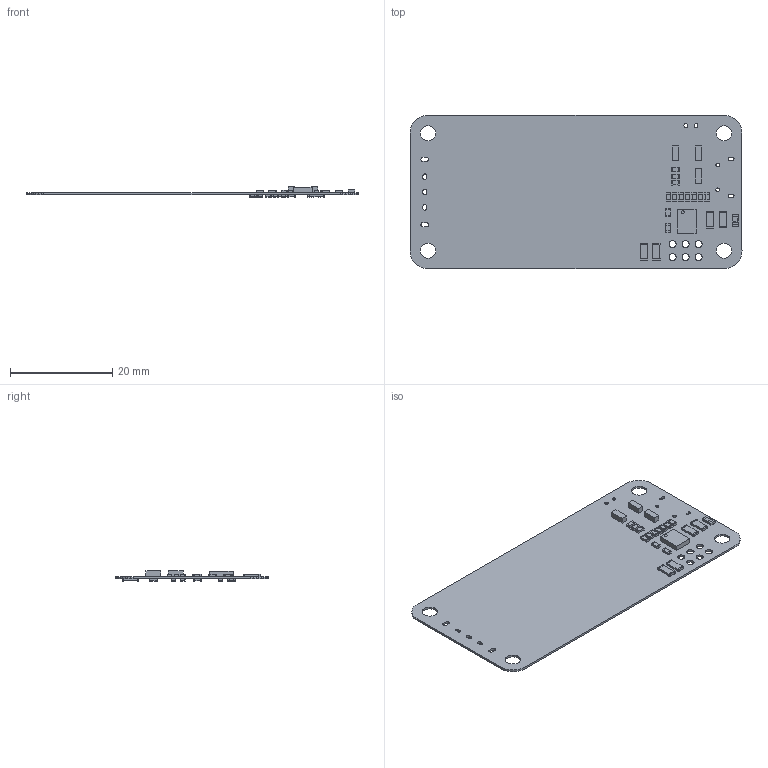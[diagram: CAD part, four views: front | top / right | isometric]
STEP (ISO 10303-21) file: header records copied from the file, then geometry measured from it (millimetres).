
FILE_DESCRIPTION(('Open CASCADE Model'),'2;1');
FILE_NAME('Open CASCADE Shape Model','2025-05-12T16:54:34',('Author'),( 'Open CASCADE'),'Open CASCADE STEP processor 6.5','Open CASCADE 6.5' ,'Unknown');
FILE_SCHEMA(('AUTOMOTIVE_DESIGN { 1 0 10303 214 1 1 1 1 }'));
Length unit declared in the file: millimetre
Products named in the file (63): PCB; Board; C4; 868861456; Extruded; 868861712; C5; 868861968; 868861840; C6; C7; C8; C9; 868862480; 868862352; C13; R1; R2; R3; R4; R5; R6; R7; R8; U2; 868860816; 868858896; C14; C1; C3; C10; 868862224; 868862096; C11; C12; C2; Led1; 868861200; 868861072; 868860944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
Assembly tree (141 placements, depth 4):
  PCB
    Board
    C4
      868861456
        Extruded
      868861712  x2
        Extruded
    C5
      868861968  x2
        Extruded
      868861840
        Extruded
    C6
      868861968  x2
        Extruded
      868861840
        Extruded
    C7
      868861968  x2
        Extruded
      868861840
        Extruded
    C8
      868861968  x2
        Extruded
      868861840
        Extruded
    C9
      868862480
        Extruded
      868862352  x2
        Extruded
    C13
      868862480
        Extruded
      868862352  x2
        Extruded
    R1
      868861968  x2
        Extruded
      868861840
        Extruded
    R2
      868861968  x2
        Extruded
      868861840
        Extruded
    R3
      868861968  x2
        Extruded
      868861840
        Extruded
    R4
      868861840
        Extruded
      868861968  x2
        Extruded
    R5
      868861840
        Extruded
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Bounding box: 65.02 x 30.02 x 2.05 mm (x, y, z)
Volume: 842.6 mm3; surface area: 4304.9 mm2
Topology: 94 solids, 94 shells, 664 faces, 1428 edges, 952 vertices
Faces by surface type: plane 636, cylinder 28
Full cylindrical faces by diameter (mm): 0.7 x2, 0.75 x2, 1.4 x6, 3 x4
Entity records: 14020 total; most frequent: CARTESIAN_POINT 2428, DIRECTION 2104, LINE 1328, VECTOR 1328, ORIENTED_EDGE 960, PCURVE 960, DEFINITIONAL_REPRESENTATION 960, EDGE_CURVE 480
